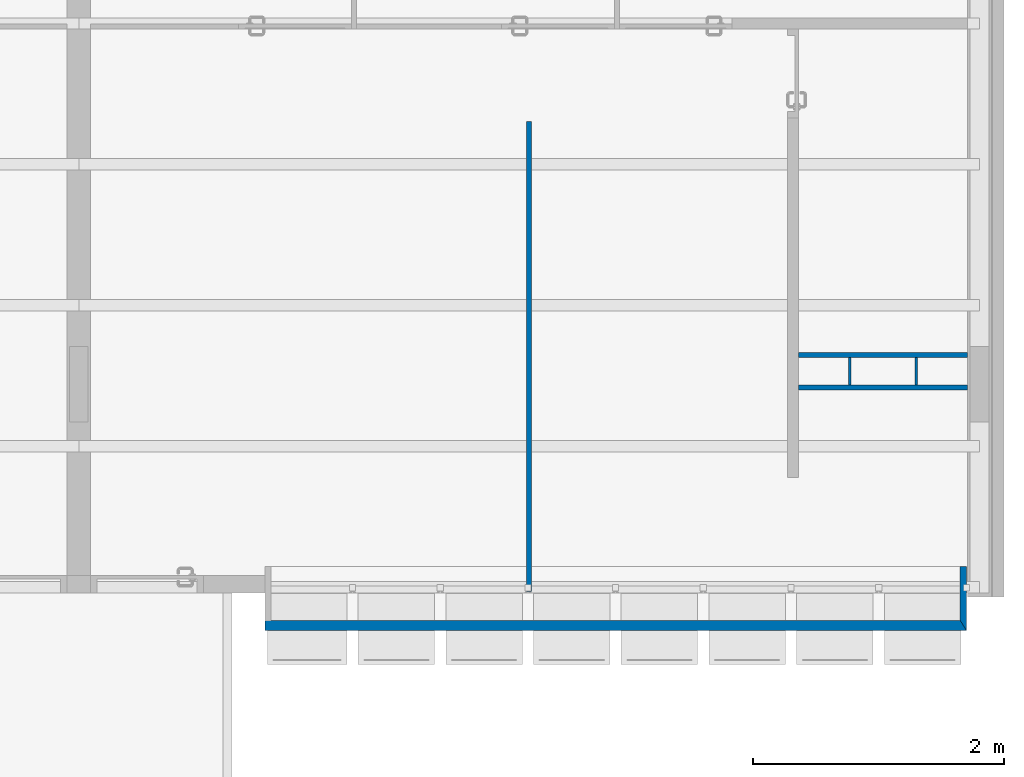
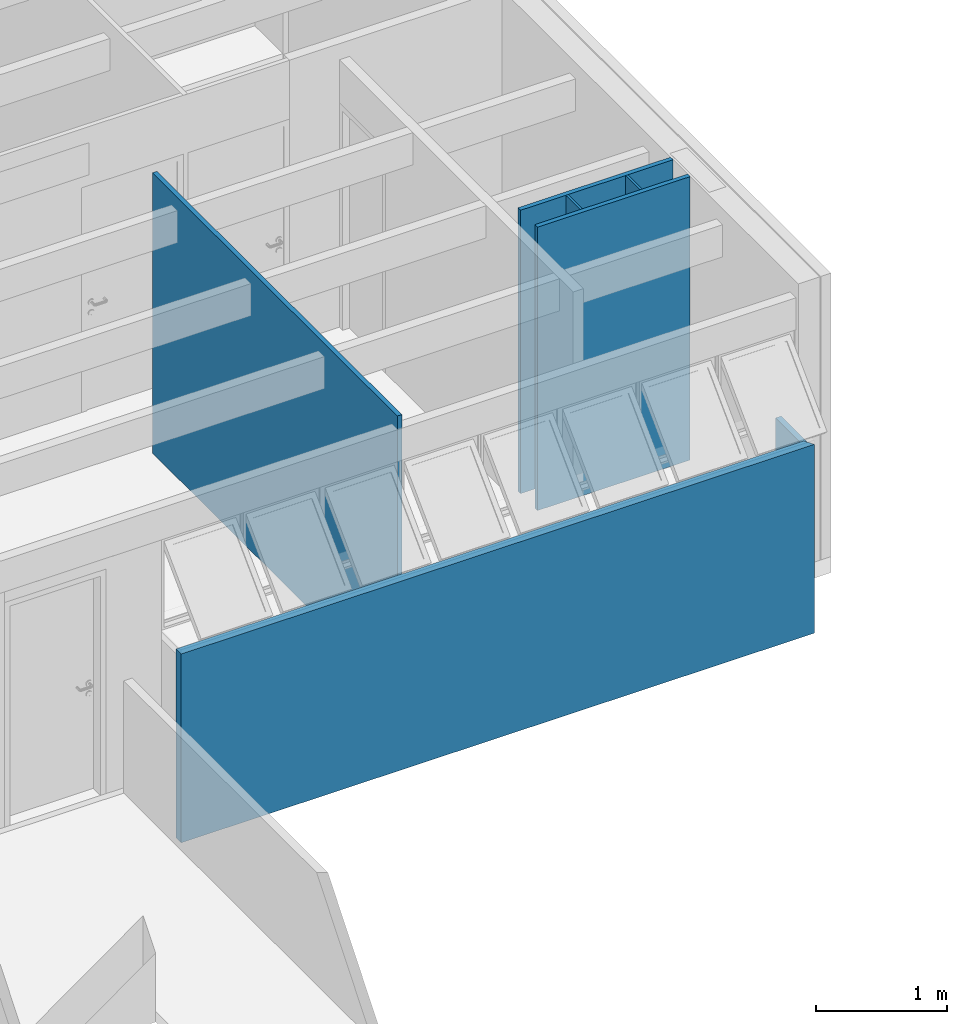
# One storey, part 37 of 40: 7 walls.
"""IFC4 building model written with IfcOpenShell, lengths in millimetres."""

from ifc_helpers import new_model, entity, si_unit, converted_unit, derived_unit, direction, frame, origin_with_axes, place, context, subcontext, project, spatial, line, indexed_curve, outline, extrude, material, layer, layer_set, layer_usage, type_object, element, save


model = new_model("IFC4")

# Units and contexts
model_context = context("Model", 3, precision=0.01, world=origin_with_axes(), true_north=direction((0.0, 1.0)))
body_context = subcontext(model_context, "Body", "Model", "MODEL_VIEW")
ifc_project = project(units=[si_unit("LENGTHUNIT", "METRE", prefix="MILLI"), si_unit("AREAUNIT", "SQUARE_METRE"), si_unit("VOLUMEUNIT", "CUBIC_METRE"), converted_unit("PLANEANGLEUNIT", "DEGREE", entity("IfcPlaneAngleMeasure", 0.0174532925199), si_unit("PLANEANGLEUNIT", "RADIAN"), dimensions=[0, 0, 0, 0, 0, 0, 0]), converted_unit("TIMEUNIT", "Year", entity("IfcTimeMeasure", 31556926.0), si_unit("TIMEUNIT", "SECOND"), dimensions=[0, 0, 1, 0, 0, 0, 0]), si_unit("MASSUNIT", "GRAM", prefix="KILO"), si_unit("THERMODYNAMICTEMPERATUREUNIT", "DEGREE_CELSIUS"), si_unit("LUMINOUSINTENSITYUNIT", "LUMEN"), si_unit("ENERGYUNIT", "JOULE", prefix="MEGA"), derived_unit("THERMALCONDUCTANCEUNIT", [(si_unit("POWERUNIT", "WATT"), 1), (si_unit("LENGTHUNIT", "METRE"), -1), (si_unit("THERMODYNAMICTEMPERATUREUNIT", "KELVIN"), -1)]), derived_unit("SPECIFICHEATCAPACITYUNIT", [(si_unit("ENERGYUNIT", "JOULE"), 1), (si_unit("MASSUNIT", "GRAM", prefix="KILO"), -1), (si_unit("THERMODYNAMICTEMPERATUREUNIT", "KELVIN"), -1)]), derived_unit("MASSDENSITYUNIT", [(si_unit("MASSUNIT", "GRAM", prefix="KILO"), 1), (si_unit("VOLUMEUNIT", "CUBIC_METRE"), -1)])], contexts=[model_context])

# Site, building, storey
site_placement = place(None, origin_with_axes())
site = spatial("IfcSite", under=ifc_project, at=site_placement, Name="Local", CompositionType="ELEMENT")
building_placement = place(site_placement, origin_with_axes())
building = spatial("IfcBuilding", under=site, at=building_placement, Name="Construção", CompositionType="ELEMENT")
storey_placement = place(building_placement, frame((0.0, 0.0, 5300.0), z_axis=(0.0, 0.0, 1.0), x_axis=(1.0, 0.0, 0.0)))
storey = spatial("IfcBuildingStorey", under=building, at=storey_placement, Name="Terceiro Pavimento", CompositionType="ELEMENT", Elevation=5300.0)

# Walls
ifc_material_1 = material(Name="GENÉRICO - VEDAÇÃO EXTERNA")
ifc_layer_1 = layer(ifc_material_1, 40.0, ventilated="UNKNOWN", Name="GENÉRICO - VEDAÇÃO EXTERNA")
ifc_layer_set_1 = layer_set([ifc_layer_1], Name="GENÉRICO - VEDAÇÃO EXTERNA 40")
ifc_layer_usage_1 = layer_usage(ifc_layer_set_1, "AXIS2", "NEGATIVE", 40.0)
wall_type_1 = type_object("IfcWallType", Name="GENÉRICO - VEDAÇÃO EXTERNA 40", PredefinedType="NOTDEFINED")
wall_1_placement = place(storey_placement, frame((10960.0, 21655.0, 0.0), z_axis=(0.0, 0.0, 1.0), x_axis=(0.0, -1.0, 0.0)))
element("IfcWall", 1, at=wall_1_placement, inside=storey, type_object=wall_type_1, material=ifc_layer_usage_1, Name="APTO12-PAREDE-003", PredefinedType="NOTDEFINED", context=body_context, shape_type="SweptSolid", body=[
    extrude(outline(indexed_curve([(0.0, 0.0), (3750.0, 0.0), (3750.0, 40.0), (0.0, 40.0)], segments=[line(1, 2, 3, 4, 1)])), origin_with_axes(), (0.0, 0.0, 1.0), 2620.0),
])
ifc_layer_usage_2 = layer_usage(ifc_layer_set_1, "AXIS2", "NEGATIVE", 40.0)
wall_2_placement = place(storey_placement, frame((14480.0, 19815.0, 0.0), z_axis=(0.0, 0.0, 1.0), x_axis=(-1.0, 0.0, 0.0)))
element("IfcWall", 2, at=wall_2_placement, inside=storey, type_object=wall_type_1, material=ifc_layer_usage_2, Name="APTO12-PAREDE-011", PredefinedType="NOTDEFINED", context=body_context, shape_type="SweptSolid", body=[
    extrude(outline(indexed_curve([(0.0, 0.0), (1350.0, 0.0), (1350.0, 40.0), (0.0, 40.0)], segments=[line(1, 2, 3, 4, 1)])), origin_with_axes(), (0.0, 0.0, 1.0), 2650.0),
])
ifc_layer_usage_3 = layer_usage(ifc_layer_set_1, "AXIS2", "NEGATIVE", 40.0)
wall_3_placement = place(storey_placement, frame((13040.0, 19515.0, 0.0), z_axis=(0.0, 0.0, 1.0), x_axis=(1.0, 0.0, 0.0)))
element("IfcWall", 3, at=wall_3_placement, inside=storey, type_object=wall_type_1, material=ifc_layer_usage_3, Name="APTO12-PAREDE-010", PredefinedType="NOTDEFINED", context=body_context, shape_type="SweptSolid", body=[
    extrude(outline(indexed_curve([(90.0, 0.0), (1440.0, 0.0), (1440.0, 40.0), (90.0, 40.0)], segments=[line(1, 2, 3, 4, 1)])), origin_with_axes(), (0.0, 0.0, 1.0), 2650.0),
])
ifc_material_2 = material(Name="Concreto Armado Moldado in Loco - Estrutural")
ifc_layer_2 = layer(ifc_material_2, 50.0, ventilated="UNKNOWN", Name="Concreto Armado Moldado in Loco - Estrutural")
ifc_layer_set_2 = layer_set([ifc_layer_2], Name="Concreto Armado Moldado in Loco - Estrutural 50")
ifc_layer_usage_4 = layer_usage(ifc_layer_set_2, "AXIS2", "POSITIVE", -50.0)
wall_type_2 = type_object("IfcWallType", Name="Concreto Armado Moldado in Loco - Estrutural 50", PredefinedType="NOTDEFINED")
wall_4_placement = place(storey_placement, frame((14470.0, 18105.0000013, 0.0), z_axis=(0.0, 0.0, 1.0), x_axis=(0.0, -1.0, 0.0)))
element("IfcWall", 4, at=wall_4_placement, inside=storey, type_object=wall_type_2, material=ifc_layer_usage_4, Name="APTO12-PAREDE-018", PredefinedType="NOTDEFINED", context=body_context, shape_type="SweptSolid", body=[
    extrude(outline(indexed_curve([(0.0, -50.0), (430.0, -50.0), (510.0, 0.0), (0.0, 0.0)], segments=[line(1, 2, 3, 4, 1)])), origin_with_axes(), (0.0, 0.0, 1.0), 1270.0),
])
ifc_layer_3 = layer(ifc_material_1, 20.0, ventilated="UNKNOWN", Name="GENÉRICO - VEDAÇÃO EXTERNA")
ifc_layer_set_3 = layer_set([ifc_layer_3], Name="GENÉRICO - VEDAÇÃO EXTERNA 20")
ifc_layer_usage_5 = layer_usage(ifc_layer_set_3, "AXIS2", "NEGATIVE", 20.0)
wall_type_3 = type_object("IfcWallType", Name="GENÉRICO - VEDAÇÃO EXTERNA 20", PredefinedType="NOTDEFINED")
wall_5_placement = place(storey_placement, frame((14060.0, 19815.0, 0.0), z_axis=(0.0, 0.0, 1.0), x_axis=(0.0, -1.0, 0.0)))
element("IfcWall", 5, at=wall_5_placement, inside=storey, type_object=wall_type_3, material=ifc_layer_usage_5, Name="APTO12-PAREDE-009", PredefinedType="NOTDEFINED", context=body_context, shape_type="SweptSolid", body=[
    extrude(outline(indexed_curve([(40.0, 0.0), (260.0, 0.0), (260.0, 20.0), (40.0, 20.0)], segments=[line(1, 2, 3, 4, 1)])), origin_with_axes(), (0.0, 0.0, 1.0), 2650.0),
])
ifc_layer_usage_6 = layer_usage(ifc_layer_set_3, "AXIS2", "NEGATIVE", 0.0)
wall_6_placement = place(storey_placement, frame((13530.0, 19515.0, 0.0), z_axis=(0.0, 0.0, 1.0), x_axis=(0.0, 1.0, 0.0)))
element("IfcWall", 6, at=wall_6_placement, inside=storey, type_object=wall_type_3, material=ifc_layer_usage_6, Name="APTO12-PAREDE-008", PredefinedType="NOTDEFINED", context=body_context, shape_type="SweptSolid", body=[
    extrude(outline(indexed_curve([(40.0, -20.0), (260.0, -20.0), (260.0, 0.0), (40.0, 0.0)], segments=[line(1, 2, 3, 4, 1)])), origin_with_axes(), (0.0, 0.0, 1.0), 2650.0),
])
ifc_layer_4 = layer(ifc_material_2, 80.0, ventilated="UNKNOWN", Name="Concreto Armado Moldado in Loco - Estrutural")
ifc_layer_set_4 = layer_set([ifc_layer_4], Name="Concreto Armado Moldado in Loco - Estrutural 80")
ifc_layer_usage_7 = layer_usage(ifc_layer_set_4, "AXIS2", "NEGATIVE", 80.0)
wall_type_4 = type_object("IfcWallType", Name="Concreto Armado Moldado in Loco - Estrutural 80", PredefinedType="NOTDEFINED")
wall_7_placement = place(storey_placement, frame((14470.0, 17675.0000013, -450.0), z_axis=(0.0, 0.0, 1.0), x_axis=(-1.0, 0.0, 0.0)))
element("IfcWall", 7, at=wall_7_placement, inside=storey, type_object=wall_type_4, material=ifc_layer_usage_7, Name="APTO12-PAREDE-017", PredefinedType="NOTDEFINED", context=body_context, shape_type="SweptSolid", body=[
    extrude(outline(indexed_curve([(50.0, 0.0), (5600.0, 0.0), (5600.0, 80.0), (0.0, 80.0)], segments=[line(1, 2, 3, 4, 1)])), origin_with_axes(), (0.0, 0.0, 1.0), 1765.0),
])

save(model, "model.ifc")
